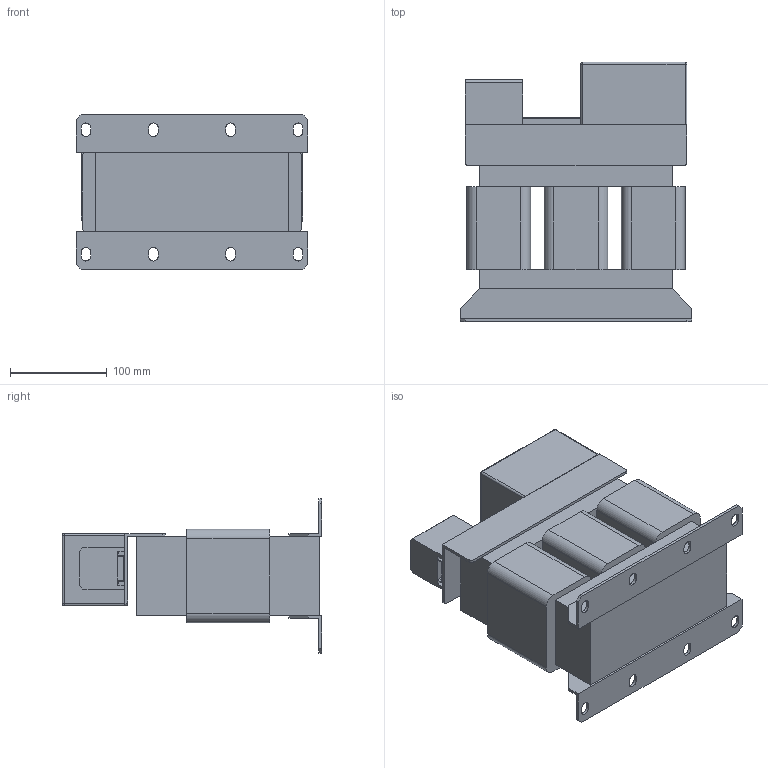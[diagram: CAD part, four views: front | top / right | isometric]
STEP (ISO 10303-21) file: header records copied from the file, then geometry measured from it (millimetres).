
FILE_DESCRIPTION(/* description */ (''),/* implementation_level */ '2;1');
FILE_NAME(/* name */ 'Sin-T4-048.stp',/* time_stamp */ '2025-03-10T16:19:09+04:00',/* author */ ('Лео'),/* organization */ (''),/* preprocessor_version */ 'ST-DEVELOPER v19.2',/* originating_system */ 'Autodesk Inventor 2024',/* authorisation */ '');
FILE_SCHEMA (('AUTOMOTIVE_DESIGN { 1 0 10303 214 3 1 1 }'));
Length unit declared in the file: millimetre
Products named in the file (1): Sin-T4-004
Bounding box: 240 x 269 x 160 mm (x, y, z)
Volume: 4156285.5 mm3; surface area: 431040.6 mm2
Topology: 10 solids, 10 shells, 152 faces, 384 edges, 252 vertices
Faces by surface type: plane 108, cylinder 40, sphere 4
Entity records: 4598 total; most frequent: CARTESIAN_POINT 789, DIRECTION 770, ORIENTED_EDGE 768, EDGE_CURVE 384, LINE 304, VECTOR 304, VERTEX_POINT 252, AXIS2_PLACEMENT_3D 233
